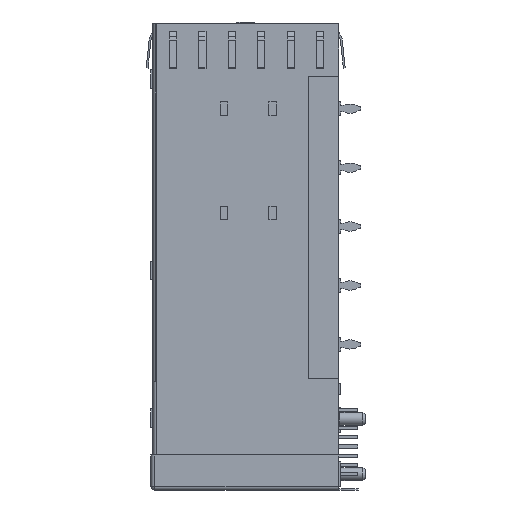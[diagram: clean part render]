
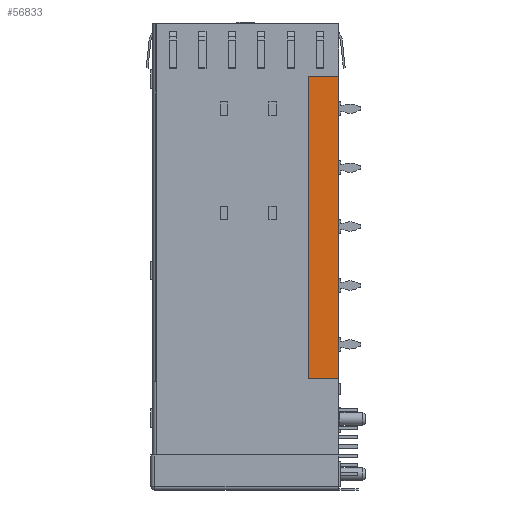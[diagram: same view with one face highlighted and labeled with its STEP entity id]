
A CAD part, left-side view. The second image highlights one B-rep face of the part: STEP entity #56833.
In plain terms, the highlighted planar face has unit normal (-1, 0, 0).
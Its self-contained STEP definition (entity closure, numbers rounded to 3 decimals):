
#2792 = DIRECTION ( 'NONE',  ( 0., 1., 0. ) ) ;
#3373 = CARTESIAN_POINT ( 'NONE',  ( -28.875, 0., -7.1 ) ) ;
#6281 = DIRECTION ( 'NONE',  ( 0., 0., 1. ) ) ;
#8123 = VECTOR ( 'NONE', #75280, 1000. ) ;
#13855 = VERTEX_POINT ( 'NONE', #76507 ) ;
#13920 = VERTEX_POINT ( 'NONE', #76981 ) ;
#16564 = PLANE ( 'NONE',  #55901 ) ;
#17875 = VECTOR ( 'NONE', #49580, 1000. ) ;
#20509 = LINE ( 'NONE', #24291, #64159 ) ;
#22645 = DIRECTION ( 'NONE',  ( 1., 0., 0. ) ) ;
#24291 = CARTESIAN_POINT ( 'NONE',  ( -28.875, 4.1, -7.1 ) ) ;
#25558 = ORIENTED_EDGE ( 'NONE', *, *, #52634, .F. ) ;
#27824 = ORIENTED_EDGE ( 'NONE', *, *, #50571, .F. ) ;
#28027 = VECTOR ( 'NONE', #2792, 1000. ) ;
#31702 = CARTESIAN_POINT ( 'NONE',  ( -28.875, 0., -7.1 ) ) ;
#33848 = LINE ( 'NONE', #31702, #17875 ) ;
#35656 = ORIENTED_EDGE ( 'NONE', *, *, #66297, .F. ) ;
#36807 = VERTEX_POINT ( 'NONE', #45171 ) ;
#36835 = VERTEX_POINT ( 'NONE', #3373 ) ;
#41996 = LINE ( 'NONE', #46157, #8123 ) ;
#42536 = FACE_OUTER_BOUND ( 'NONE', #72732, .T. ) ;
#45171 = CARTESIAN_POINT ( 'NONE',  ( -28.875, 4.1, -7.1 ) ) ;
#46157 = CARTESIAN_POINT ( 'NONE',  ( -28.875, 0., -7.1 ) ) ;
#47542 = ORIENTED_EDGE ( 'NONE', *, *, #52397, .F. ) ;
#49580 = DIRECTION ( 'NONE',  ( 0., -1., 0. ) ) ;
#50571 = EDGE_CURVE ( 'NONE', #36807, #36835, #33848, .T. ) ;
#50773 = CARTESIAN_POINT ( 'NONE',  ( -28.875, 0., -48.1 ) ) ;
#52397 = EDGE_CURVE ( 'NONE', #13855, #36807, #20509, .T. ) ;
#52634 = EDGE_CURVE ( 'NONE', #13920, #13855, #59484, .T. ) ;
#55901 = AXIS2_PLACEMENT_3D ( 'NONE', #58188, #22645, #64110 ) ;
#56833 = ADVANCED_FACE ( 'NONE', ( #42536 ), #16564, .F. ) ;
#58188 = CARTESIAN_POINT ( 'NONE',  ( -28.875, 0., 0. ) ) ;
#59484 = LINE ( 'NONE', #50773, #28027 ) ;
#64110 = DIRECTION ( 'NONE',  ( 0., 0., 1. ) ) ;
#64159 = VECTOR ( 'NONE', #6281, 1000. ) ;
#66297 = EDGE_CURVE ( 'NONE', #36835, #13920, #41996, .T. ) ;
#72732 = EDGE_LOOP ( 'NONE', ( #27824, #47542, #25558, #35656 ) ) ;
#75280 = DIRECTION ( 'NONE',  ( 0., 0., -1. ) ) ;
#76507 = CARTESIAN_POINT ( 'NONE',  ( -28.875, 4.1, -48.1 ) ) ;
#76981 = CARTESIAN_POINT ( 'NONE',  ( -28.875, 0., -48.1 ) ) ;
